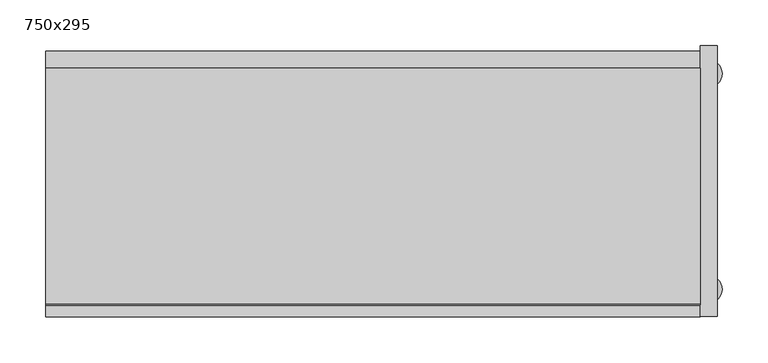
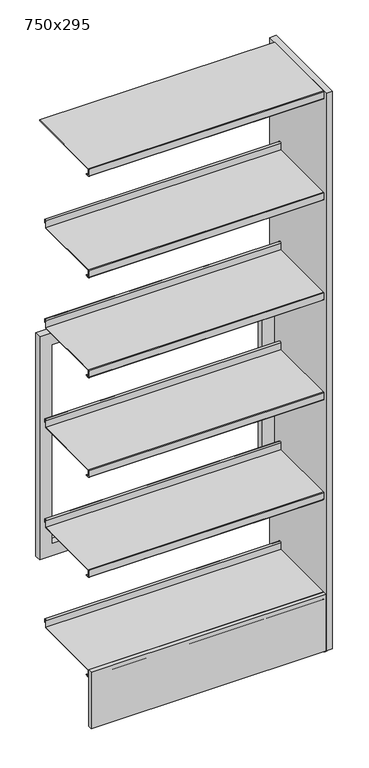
"""IFC4 building model written with IfcOpenShell, lengths in millimetres: furniture geometry, BK Library - Rondus EF - 1800 : 750x295."""

import ifcopenshell
import ifcopenshell.guid

model = None  # the IFC model being written
_history = None  # IfcOwnerHistory: only IFC2X3 demands one
_inside = {}  # id of a spatial element -> (the spatial element, [elements in it])
_under = {}  # id of a project, library or spatial element -> (it, [spatial elements below it])
_declared = {}  # id of a project -> (the project, [libraries it declares])
_typed = {}  # id of a type object -> (the type object, [elements of that type])
_made_of = {}  # id of a material, layer set ... -> (it, [elements and type objects made of it])


def new_model(schema):
    """Start an empty IFC model of exactly this schema.

    Asked for "IFC4X3", IfcOpenShell would pick the latest addendum, in which some entities
    have other attributes; the version numbers below select the first issue.
    IFC2X3 requires an IfcOwnerHistory on every rooted entity: one is made here for all.
    """
    global model, _history
    if schema == "IFC4X3":
        model = ifcopenshell.file(schema_version=(4, 3, 0, 0))
    else:
        model = ifcopenshell.file(schema=schema)
    _inside.clear()
    _under.clear()
    _declared.clear()
    _typed.clear()
    _made_of.clear()
    _history = None
    if model.schema == "IFC2X3":
        org = make("IfcOrganization", Name="unknown")
        user = make(
            "IfcPersonAndOrganization",
            ThePerson=make("IfcPerson", FamilyName="unknown"),
            TheOrganization=org,
        )
        app = make(
            "IfcApplication",
            ApplicationDeveloper=org,
            Version="unknown",
            ApplicationFullName="unknown",
            ApplicationIdentifier="unknown",
        )
        _history = make(
            "IfcOwnerHistory",
            OwningUser=user,
            OwningApplication=app,
            ChangeAction="ADDED",
            CreationDate=0,
        )
    return model


def make(cls, **values):
    """One entity of the class cls with the attributes given. An attribute that is None is left unset."""
    return model.create_entity(
        cls, **{name: value for name, value in values.items() if value is not None}
    )


def rooted(cls, **values):
    """An entity with a GlobalId (a new one), such as an element, a storey or a relation."""
    return make(cls, GlobalId=ifcopenshell.guid.new(), OwnerHistory=_history, **values)


def si_unit(unit_type, name, prefix=None):
    """IfcSIUnit, for example si_unit("LENGTHUNIT", "METRE", prefix="MILLI")."""
    return make("IfcSIUnit", UnitType=unit_type, Prefix=prefix, Name=name)


def assignment(units):
    """IfcUnitAssignment: the units of a project."""
    return None if units is None else make("IfcUnitAssignment", Units=units)


def point(xyz):
    """IfcCartesianPoint."""
    return None if xyz is None else make("IfcCartesianPoint", Coordinates=xyz)


def direction(xyz):
    """IfcDirection."""
    return None if xyz is None else make("IfcDirection", DirectionRatios=xyz)


def frame(location, z_axis=None, x_axis=None):
    """IfcAxis2Placement3D, a coordinate frame: its origin and axes. An axis left out is left unset."""
    return make(
        "IfcAxis2Placement3D",
        Location=point(location),
        Axis=direction(z_axis),
        RefDirection=direction(x_axis),
    )


def frame_2d(location, x_axis=None):
    """IfcAxis2Placement2D, a coordinate frame in the plane: its origin and x axis."""
    return make(
        "IfcAxis2Placement2D", Location=point(location), RefDirection=direction(x_axis)
    )


def origin():
    """The frame at (0, 0, 0) with its axes left unset."""
    return frame((0.0, 0.0, 0.0))


def origin_with_axes():
    """The frame at (0, 0, 0) with the z axis (0, 0, 1) and the x axis (1, 0, 0) written out."""
    return frame((0.0, 0.0, 0.0), z_axis=(0.0, 0.0, 1.0), x_axis=(1.0, 0.0, 0.0))


def place(relative_to, where):
    """IfcLocalPlacement: puts the frame where relative to a parent placement (None: the world)."""
    return make(
        "IfcLocalPlacement", PlacementRelTo=relative_to, RelativePlacement=where
    )


def context(
    kind, dimensions, precision=None, world=None, true_north=None, identifier=None
):
    """IfcGeometricRepresentationContext, for example the 3D "Model" context."""
    return make(
        "IfcGeometricRepresentationContext",
        ContextIdentifier=identifier,
        ContextType=kind,
        CoordinateSpaceDimension=dimensions,
        Precision=precision,
        WorldCoordinateSystem=world,
        TrueNorth=true_north,
    )


def project(units=None, contexts=None):
    """IfcProject with its units and contexts."""
    return rooted(
        "IfcProject",
        Name="project",
        RepresentationContexts=contexts,
        UnitsInContext=assignment(units),
    )


def spatial(cls, under=None, at=None, **own):
    """A site, building, storey or space (cls), placed at a placement, below another one or the project."""
    s = rooted(cls, ObjectPlacement=at, **own)
    if under is not None:
        _under.setdefault(under.id(), (under, []))[1].append(s)
    return s


def polyline(points):
    """IfcPolyline through the points."""
    return make("IfcPolyline", Points=[point(p) for p in points])


def circle_curve(where, radius):
    """IfcCircle in the frame where."""
    return make("IfcCircle", Position=where, Radius=radius)


def trimmed(basis, trim1, trim2, sense, master):
    """IfcTrimmedCurve: the piece of a basis curve between two trims."""
    return make(
        "IfcTrimmedCurve",
        BasisCurve=basis,
        Trim1=trim1,
        Trim2=trim2,
        SenseAgreement=sense,
        MasterRepresentation=master,
    )


def segment(curve, same_sense, transition):
    """IfcCompositeCurveSegment."""
    return make(
        "IfcCompositeCurveSegment",
        Transition=transition,
        SameSense=same_sense,
        ParentCurve=curve,
    )


def composite_curve(segments, self_intersect=None):
    """IfcCompositeCurve: segments joined end to end."""
    return make("IfcCompositeCurve", Segments=segments, SelfIntersect=self_intersect)


def outline(outer, holes=None, kind="AREA"):
    """IfcArbitraryClosedProfileDef: a profile drawn as a closed curve; with holes, ...WithVoids."""
    if holes is None:
        return make("IfcArbitraryClosedProfileDef", ProfileType=kind, OuterCurve=outer)
    return make(
        "IfcArbitraryProfileDefWithVoids",
        ProfileType=kind,
        OuterCurve=outer,
        InnerCurves=holes,
    )


def extrude(swept, where, along, depth):
    """IfcExtrudedAreaSolid: the profile swept, set in the frame where, extruded along a direction by depth."""
    return make(
        "IfcExtrudedAreaSolid",
        SweptArea=swept,
        Position=where,
        ExtrudedDirection=direction(along),
        Depth=depth,
    )


def shape(context_of_items, identifier, shape_type, items):
    """IfcShapeRepresentation: the items that make up one representation, for example the "Body"."""
    return make(
        "IfcShapeRepresentation",
        ContextOfItems=context_of_items,
        RepresentationIdentifier=identifier,
        RepresentationType=shape_type,
        Items=items,
    )


def source(mapping_origin, context_of_items, identifier, shape_type, items):
    """IfcRepresentationMap: a shape defined once, which mapped items show again and again."""
    return make(
        "IfcRepresentationMap",
        MappingOrigin=mapping_origin,
        MappedRepresentation=shape(context_of_items, identifier, shape_type, items),
    )


def transform(
    local_origin,
    x_axis=None,
    y_axis=None,
    z_axis=None,
    scale=None,
    scale2=None,
    scale3=None,
    uniform=True,
):
    """IfcCartesianTransformationOperator3D, or its non-uniform kind. x_axis, y_axis, z_axis: its Axis1, 2, 3."""
    if uniform:
        return make(
            "IfcCartesianTransformationOperator3D",
            Axis1=direction(x_axis),
            Axis2=direction(y_axis),
            LocalOrigin=point(local_origin),
            Scale=scale,
            Axis3=direction(z_axis),
        )
    return make(
        "IfcCartesianTransformationOperator3DnonUniform",
        Axis1=direction(x_axis),
        Axis2=direction(y_axis),
        LocalOrigin=point(local_origin),
        Scale=scale,
        Axis3=direction(z_axis),
        Scale2=scale2,
        Scale3=scale3,
    )


def mapped(mapping_source, mapping_target):
    """IfcMappedItem: shows the shape of a source again, moved by a transform."""
    return make(
        "IfcMappedItem", MappingSource=mapping_source, MappingTarget=mapping_target
    )


def made_of(thing, what):
    """Note that an element or type object is made of a material, layer set ...; save() writes the relation."""
    if what is not None:
        _made_of.setdefault(what.id(), (what, []))[1].append(thing)
    return thing


def element(
    cls,
    number,
    at=None,
    inside=None,
    cuts=None,
    type_object=None,
    material=None,
    context=None,
    identifier="Body",
    shape_type=None,
    held_by="IfcProductDefinitionShape",
    body=None,
    shapes=None,
    **own,
):
    """One element of the class cls, such as IfcWall. Its Tag is "e" and its number.

    at: its placement. inside: the storey or other place that contains it. cuts: it is an
    opening in that element (IfcRelVoidsElement). A single representation is given by context,
    identifier, shape_type and body (its items); several are given by shapes. held_by: the class
    of the entity that holds the representations. save() writes the other relations.
    """
    e = rooted(cls, Tag="e%d" % number, ObjectPlacement=at, **own)
    if body is not None:
        shapes = [shape(context, identifier, shape_type, body)]
    if shapes is not None:
        e.Representation = make(held_by, Representations=shapes)
    if inside is not None:
        _inside.setdefault(inside.id(), (inside, []))[1].append(e)
    if cuts is not None:
        rooted(
            "IfcRelVoidsElement", RelatingBuildingElement=cuts, RelatedOpeningElement=e
        )
    if type_object is not None:
        _typed.setdefault(type_object.id(), (type_object, []))[1].append(e)
    return made_of(e, material)


def aggregate(whole, parts):
    """IfcRelAggregates: a whole, such as a stair, and the parts it consists of."""
    return rooted("IfcRelAggregates", RelatingObject=whole, RelatedObjects=parts)


def save(model, path):
    """Write the relations noted so far, then the file.

    IfcRelAggregates (storeys below a building ...), IfcRelContainedInSpatialStructure (elements
    in a storey), IfcRelDefinesByType, IfcRelAssociatesMaterial and IfcRelDeclares: one each for
    every whole, place, type object, material and project.
    """
    for whole, parts in _under.values():
        aggregate(whole, parts)
    for where, things in _inside.values():
        rooted(
            "IfcRelContainedInSpatialStructure",
            RelatedElements=things,
            RelatingStructure=where,
        )
    for kind, things in _typed.values():
        rooted("IfcRelDefinesByType", RelatedObjects=things, RelatingType=kind)
    for what, things in _made_of.values():
        rooted("IfcRelAssociatesMaterial", RelatedObjects=things, RelatingMaterial=what)
    for by, libraries in _declared.values():
        rooted("IfcRelDeclares", RelatingContext=by, RelatedDefinitions=libraries)
    model.write(path)


def furniture_750x295_8a70aaf8(model_context):
    return source(origin(), model_context, "Body", "SweptSolid", [
        extrude(outline(polyline([(1106.1999512, -356.0), (391.1999512, -356.0), (391.1999512, 356.0), (1106.1999512, 356.0), (1106.1999512, -356.0)]), holes=[polyline([(1066.1999514, -317.5), (1066.1999514, 317.5), (431.1999514, 317.5), (431.1999514, -317.5), (1066.1999514, -317.5)])]), frame((0.0, 123.0, 0.0), z_axis=(0.0, 1.0, 0.0), x_axis=(0.0, 0.0, 1.0)), (0.0, 0.0, 1.0), 19.0),
        extrude(outline(polyline([(356.0, -135.2476624), (356.0, -147.5), (-356.0, -147.5), (-356.0, -135.2476624), (356.0, -135.2476624)])), frame((0.0, 0.0, 13.6999998), z_axis=(0.0, 0.0, 1.0), x_axis=(1.0, 0.0, 0.0)), (0.0, 0.0, 1.0), 181.4999514),
        extrude(outline(composite_curve([segment(polyline([(123.0, 1800.0), (123.0, 1798.0), (-133.75, 1798.0), (-133.75, 1776.5), (-121.75, 1776.5), (-121.75, 1775.0), (-133.75, 1775.0)]), True, "CONTINUOUS"), segment(trimmed(circle_curve(frame_2d((-133.75, 1776.5)), 1.5), [point((-133.75, 1775.0))], [point((-135.25, 1776.5))], False, "CARTESIAN"), True, "CONTINUOUS"), segment(polyline([(-135.25, 1776.5), (-135.25, 1798.5)]), True, "CONTINUOUS"), segment(trimmed(circle_curve(frame_2d((-133.75, 1798.5)), 1.5), [point((-135.25, 1798.5))], [point((-133.75, 1800.0))], False, "CARTESIAN"), True, "CONTINUOUS"), segment(polyline([(-133.75, 1800.0), (123.0, 1800.0)]), True, "CONTINUOUS")], self_intersect=False)), frame((-356.0, 0.0, 0.0), z_axis=(1.0, 0.0, 0.0), x_axis=(0.0, 1.0, 0.0)), (0.0, 0.0, 1.0), 712.0),
        extrude(outline(composite_curve([segment(polyline([(89.75, 1475.1999512), (89.75, 1496.7196336)]), True, "CONTINUOUS"), segment(trimmed(circle_curve(frame_2d((93.25, 1496.7196336)), 3.5), [point((89.75, 1496.7196336))], [point((96.75, 1496.7196336))], False, "CARTESIAN"), True, "CONTINUOUS"), segment(polyline([(96.75, 1496.7196336), (96.75, 1488.1999512), (95.25, 1488.1999512), (95.25, 1496.7020126)]), True, "CONTINUOUS"), segment(trimmed(circle_curve(frame_2d((93.25, 1496.7020126)), 2.0), [point((95.25, 1496.7020126))], [point((91.25, 1496.7020126))], True, "CARTESIAN"), True, "CONTINUOUS"), segment(polyline([(91.25, 1496.7020126), (91.25, 1475.1547733)]), True, "CONTINUOUS"), segment(trimmed(circle_curve(frame_2d((89.7951779, 1475.1547733)), 1.4548221), [point((91.25, 1475.1547733))], [point((89.7951779, 1473.6999512))], False, "CARTESIAN"), True, "CONTINUOUS"), segment(polyline([(89.7951779, 1473.6999512), (-133.75, 1473.6999512), (-133.75, 1452.1999512), (-121.75, 1452.1999512), (-121.75, 1450.6999512), (-133.75, 1450.6999512)]), True, "CONTINUOUS"), segment(trimmed(circle_curve(frame_2d((-133.75, 1452.1999512)), 1.5), [point((-133.75, 1450.6999512))], [point((-135.25, 1452.1999512))], False, "CARTESIAN"), True, "CONTINUOUS"), segment(polyline([(-135.25, 1452.1999512), (-135.25, 1473.6999512)]), True, "CONTINUOUS"), segment(trimmed(circle_curve(frame_2d((-133.75, 1473.6999512)), 1.5), [point((-135.25, 1473.6999512))], [point((-133.75, 1475.1999512))], False, "CARTESIAN"), True, "CONTINUOUS"), segment(polyline([(-133.75, 1475.1999512), (89.75, 1475.1999512)]), True, "CONTINUOUS")], self_intersect=False)), frame((-356.0, 0.0, 0.0), z_axis=(1.0, 0.0, 0.0), x_axis=(0.0, 1.0, 0.0)), (0.0, 0.0, 1.0), 712.0),
        extrude(outline(composite_curve([segment(polyline([(89.75, 1155.1999512), (89.75, 1176.7196336)]), True, "CONTINUOUS"), segment(trimmed(circle_curve(frame_2d((93.25, 1176.7196336)), 3.5), [point((89.75, 1176.7196336))], [point((96.75, 1176.7196336))], False, "CARTESIAN"), True, "CONTINUOUS"), segment(polyline([(96.75, 1176.7196336), (96.75, 1168.1999512), (95.25, 1168.1999512), (95.25, 1176.7020126)]), True, "CONTINUOUS"), segment(trimmed(circle_curve(frame_2d((93.25, 1176.7020126)), 2.0), [point((95.25, 1176.7020126))], [point((91.25, 1176.7020126))], True, "CARTESIAN"), True, "CONTINUOUS"), segment(polyline([(91.25, 1176.7020126), (91.25, 1155.1547733)]), True, "CONTINUOUS"), segment(trimmed(circle_curve(frame_2d((89.7951779, 1155.1547733)), 1.4548221), [point((91.25, 1155.1547733))], [point((89.7951779, 1153.6999512))], False, "CARTESIAN"), True, "CONTINUOUS"), segment(polyline([(89.7951779, 1153.6999512), (-133.75, 1153.6999512), (-133.75, 1132.1999512), (-121.75, 1132.1999512), (-121.75, 1130.6999512), (-133.75, 1130.6999512)]), True, "CONTINUOUS"), segment(trimmed(circle_curve(frame_2d((-133.75, 1132.1999512)), 1.5), [point((-133.75, 1130.6999512))], [point((-135.25, 1132.1999512))], False, "CARTESIAN"), True, "CONTINUOUS"), segment(polyline([(-135.25, 1132.1999512), (-135.25, 1153.6999512)]), True, "CONTINUOUS"), segment(trimmed(circle_curve(frame_2d((-133.75, 1153.6999512)), 1.5), [point((-135.25, 1153.6999512))], [point((-133.75, 1155.1999512))], False, "CARTESIAN"), True, "CONTINUOUS"), segment(polyline([(-133.75, 1155.1999512), (89.75, 1155.1999512)]), True, "CONTINUOUS")], self_intersect=False)), frame((-356.0, 0.0, 0.0), z_axis=(1.0, 0.0, 0.0), x_axis=(0.0, 1.0, 0.0)), (0.0, 0.0, 1.0), 712.0),
        extrude(outline(composite_curve([segment(polyline([(89.75, 835.1999512), (89.75, 856.7196336)]), True, "CONTINUOUS"), segment(trimmed(circle_curve(frame_2d((93.25, 856.7196336)), 3.5), [point((89.75, 856.7196336))], [point((96.75, 856.7196336))], False, "CARTESIAN"), True, "CONTINUOUS"), segment(polyline([(96.75, 856.7196336), (96.75, 848.1999512), (95.25, 848.1999512), (95.25, 856.7020126)]), True, "CONTINUOUS"), segment(trimmed(circle_curve(frame_2d((93.25, 856.7020126)), 2.0), [point((95.25, 856.7020126))], [point((91.25, 856.7020126))], True, "CARTESIAN"), True, "CONTINUOUS"), segment(polyline([(91.25, 856.7020126), (91.25, 835.1547733)]), True, "CONTINUOUS"), segment(trimmed(circle_curve(frame_2d((89.7951779, 835.1547733)), 1.4548221), [point((91.25, 835.1547733))], [point((89.7951779, 833.6999512))], False, "CARTESIAN"), True, "CONTINUOUS"), segment(polyline([(89.7951779, 833.6999512), (-133.75, 833.6999512), (-133.75, 812.1999512), (-121.75, 812.1999512), (-121.75, 810.6999512), (-133.75, 810.6999512)]), True, "CONTINUOUS"), segment(trimmed(circle_curve(frame_2d((-133.75, 812.1999512)), 1.5), [point((-133.75, 810.6999512))], [point((-135.25, 812.1999512))], False, "CARTESIAN"), True, "CONTINUOUS"), segment(polyline([(-135.25, 812.1999512), (-135.25, 833.6999512)]), True, "CONTINUOUS"), segment(trimmed(circle_curve(frame_2d((-133.75, 833.6999512)), 1.5), [point((-135.25, 833.6999512))], [point((-133.75, 835.1999512))], False, "CARTESIAN"), True, "CONTINUOUS"), segment(polyline([(-133.75, 835.1999512), (89.75, 835.1999512)]), True, "CONTINUOUS")], self_intersect=False)), frame((-356.0, 0.0, 0.0), z_axis=(1.0, 0.0, 0.0), x_axis=(0.0, 1.0, 0.0)), (0.0, 0.0, 1.0), 712.0),
        extrude(outline(composite_curve([segment(polyline([(89.75, 515.1999512), (89.75, 536.7196336)]), True, "CONTINUOUS"), segment(trimmed(circle_curve(frame_2d((93.25, 536.7196336)), 3.5), [point((89.75, 536.7196336))], [point((96.75, 536.7196336))], False, "CARTESIAN"), True, "CONTINUOUS"), segment(polyline([(96.75, 536.7196336), (96.75, 528.1999512), (95.25, 528.1999512), (95.25, 536.7020126)]), True, "CONTINUOUS"), segment(trimmed(circle_curve(frame_2d((93.25, 536.7020126)), 2.0), [point((95.25, 536.7020126))], [point((91.25, 536.7020126))], True, "CARTESIAN"), True, "CONTINUOUS"), segment(polyline([(91.25, 536.7020126), (91.25, 515.1547733)]), True, "CONTINUOUS"), segment(trimmed(circle_curve(frame_2d((89.7951779, 515.1547733)), 1.4548221), [point((91.25, 515.1547733))], [point((89.7951779, 513.6999512))], False, "CARTESIAN"), True, "CONTINUOUS"), segment(polyline([(89.7951779, 513.6999512), (-133.75, 513.6999512), (-133.75, 492.1999512), (-121.75, 492.1999512), (-121.75, 490.6999512), (-133.75, 490.6999512)]), True, "CONTINUOUS"), segment(trimmed(circle_curve(frame_2d((-133.75, 492.1999512)), 1.5), [point((-133.75, 490.6999512))], [point((-135.25, 492.1999512))], False, "CARTESIAN"), True, "CONTINUOUS"), segment(polyline([(-135.25, 492.1999512), (-135.25, 513.6999512)]), True, "CONTINUOUS"), segment(trimmed(circle_curve(frame_2d((-133.75, 513.6999512)), 1.5), [point((-135.25, 513.6999512))], [point((-133.75, 515.1999512))], False, "CARTESIAN"), True, "CONTINUOUS"), segment(polyline([(-133.75, 515.1999512), (89.75, 515.1999512)]), True, "CONTINUOUS")], self_intersect=False)), frame((-356.0, 0.0, 0.0), z_axis=(1.0, 0.0, 0.0), x_axis=(0.0, 1.0, 0.0)), (0.0, 0.0, 1.0), 712.0),
        extrude(outline(composite_curve([segment(polyline([(89.75, 195.1999512), (89.75, 216.7196336)]), True, "CONTINUOUS"), segment(trimmed(circle_curve(frame_2d((93.25, 216.7196336)), 3.5), [point((89.75, 216.7196336))], [point((96.75, 216.7196336))], False, "CARTESIAN"), True, "CONTINUOUS"), segment(polyline([(96.75, 216.7196336), (96.75, 208.1999512), (95.25, 208.1999512), (95.25, 216.7020126)]), True, "CONTINUOUS"), segment(trimmed(circle_curve(frame_2d((93.25, 216.7020126)), 2.0), [point((95.25, 216.7020126))], [point((91.25, 216.7020126))], True, "CARTESIAN"), True, "CONTINUOUS"), segment(polyline([(91.25, 216.7020126), (91.25, 195.1547733)]), True, "CONTINUOUS"), segment(trimmed(circle_curve(frame_2d((89.7951779, 195.1547733)), 1.4548221), [point((91.25, 195.1547733))], [point((89.7951779, 193.6999512))], False, "CARTESIAN"), True, "CONTINUOUS"), segment(polyline([(89.7951779, 193.6999512), (-133.75, 193.6999512), (-133.75, 172.1999512), (-121.75, 172.1999512), (-121.75, 170.6999512), (-133.75, 170.6999512)]), True, "CONTINUOUS"), segment(trimmed(circle_curve(frame_2d((-133.75, 172.1999512)), 1.5), [point((-133.75, 170.6999512))], [point((-135.25, 172.1999512))], False, "CARTESIAN"), True, "CONTINUOUS"), segment(polyline([(-135.25, 172.1999512), (-135.25, 193.6999512)]), True, "CONTINUOUS"), segment(trimmed(circle_curve(frame_2d((-133.75, 193.6999512)), 1.5), [point((-135.25, 193.6999512))], [point((-133.75, 195.1999512))], False, "CARTESIAN"), True, "CONTINUOUS"), segment(polyline([(-133.75, 195.1999512), (89.75, 195.1999512)]), True, "CONTINUOUS")], self_intersect=False)), frame((-356.0, 0.0, 0.0), z_axis=(1.0, 0.0, 0.0), x_axis=(0.0, 1.0, 0.0)), (0.0, 0.0, 1.0), 712.0),
        extrude(outline(polyline([(356.0, 147.5), (375.0, 147.5), (375.0, -147.5), (356.0, -147.5), (356.0, 147.5)])), frame((0.0, 0.0, 13.6999998), z_axis=(0.0, 0.0, 1.0), x_axis=(1.0, 0.0, 0.0)), (0.0, 0.0, 1.0), 1786.3000002),
        extrude(outline(composite_curve([segment(trimmed(circle_curve(frame_2d((365.5005427, 117.4952633)), 14.4994573), [point((380.0, 117.4952633))], [point((351.0010853, 117.4952633))], False, "CARTESIAN"), True, "CONTINUOUS"), segment(trimmed(circle_curve(frame_2d((365.5005427, 117.4952633)), 14.4994573), [point((351.0010853, 117.4952633))], [point((380.0, 117.4952633))], False, "CARTESIAN"), True, "CONTINUOUS")], self_intersect=False)), origin_with_axes(), (0.0, 0.0, 1.0), 13.6999998),
        extrude(outline(composite_curve([segment(trimmed(circle_curve(frame_2d((365.5005427, -117.4952633)), 14.4994573), [point((380.0, -117.4952633))], [point((351.0010853, -117.4952633))], False, "CARTESIAN"), True, "CONTINUOUS"), segment(trimmed(circle_curve(frame_2d((365.5005427, -117.4952633)), 14.4994573), [point((351.0010853, -117.4952633))], [point((380.0, -117.4952633))], False, "CARTESIAN"), True, "CONTINUOUS")], self_intersect=False)), origin_with_axes(), (0.0, 0.0, 1.0), 13.6999998),
    ])


if __name__ == "__main__":
    model = new_model("IFC4")
    model_context = context("Model", 3, world=origin())
    ifc_project = project(units=[si_unit("LENGTHUNIT", "METRE", prefix="MILLI")], contexts=[model_context])
    site = spatial("IfcSite", under=ifc_project)
    building = spatial("IfcBuilding", under=site)
    placement = place(None, origin())
    furniture_750x295_shape = furniture_750x295_8a70aaf8(model_context)
    element("IfcFurniture", 1, ObjectType="BK Library - Rondus EF - 1800 : 750x295", at=placement, inside=building, context=model_context, shape_type="MappedRepresentation", body=[
        mapped(furniture_750x295_shape, transform((0.0, 0.0, 0.0), x_axis=(1.0, 0.0, 0.0), y_axis=(0.0, 1.0, 0.0), z_axis=(0.0, 0.0, 1.0))),
    ])
    save(model, "model.ifc")
